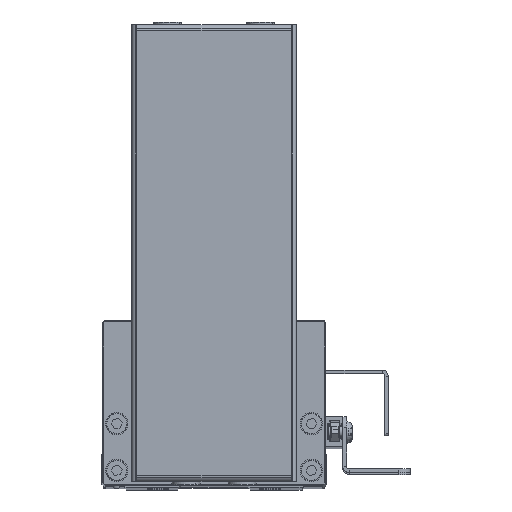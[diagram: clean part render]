
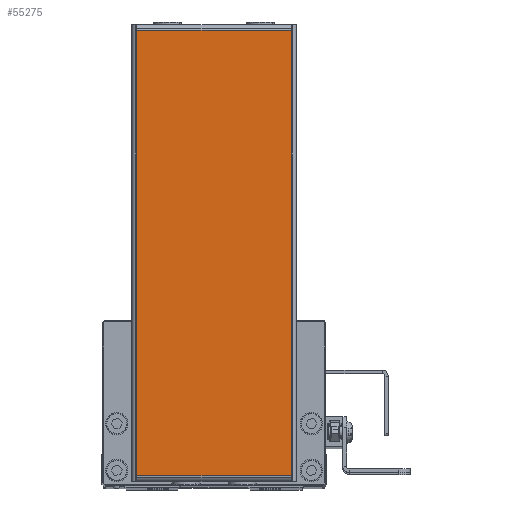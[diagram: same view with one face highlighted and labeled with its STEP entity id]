
A CAD part, top view. The second image highlights one B-rep face of the part: STEP entity #55275.
In plain terms, the highlighted planar face has unit normal (0, 0, 1) as drawn and (0, 0, -1) by its records, which use the part's own axes.
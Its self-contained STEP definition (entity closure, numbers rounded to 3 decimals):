
#282 = LINE ( 'NONE', #34448, #26532 ) ;
#641 = EDGE_CURVE ( 'NONE', #19281, #54152, #3967, .T. ) ;
#3403 = EDGE_CURVE ( 'NONE', #36416, #19281, #9266, .T. ) ;
#3967 = LINE ( 'NONE', #9452, #30939 ) ;
#5375 = VECTOR ( 'NONE', #36596, 1000. ) ;
#9266 = LINE ( 'NONE', #15839, #55844 ) ;
#9452 = CARTESIAN_POINT ( 'NONE',  ( 0., 42.7, -1. ) ) ;
#9522 = PLANE ( 'NONE',  #30927 ) ;
#9932 = CARTESIAN_POINT ( 'NONE',  ( 1.5, 1.3, -1. ) ) ;
#11483 = EDGE_CURVE ( 'NONE', #54152, #46057, #36548, .T. ) ;
#14857 = CARTESIAN_POINT ( 'NONE',  ( 120.5, 1.3, -1. ) ) ;
#15839 = CARTESIAN_POINT ( 'NONE',  ( 1.5, 1.3, -1. ) ) ;
#19281 = VERTEX_POINT ( 'NONE', #40364 ) ;
#19836 = CARTESIAN_POINT ( 'NONE',  ( 120.5, 42.7, -1. ) ) ;
#26532 = VECTOR ( 'NONE', #44291, 1000. ) ;
#27526 = CARTESIAN_POINT ( 'NONE',  ( 120.5, 42.7, -1. ) ) ;
#27536 = CARTESIAN_POINT ( 'NONE',  ( 0., 0., -1. ) ) ;
#28352 = ORIENTED_EDGE ( 'NONE', *, *, #641, .T. ) ;
#30927 = AXIS2_PLACEMENT_3D ( 'NONE', #27536, #49790, #31881 ) ;
#30939 = VECTOR ( 'NONE', #50109, 1000. ) ;
#31881 = DIRECTION ( 'NONE',  ( -1., 0., 0. ) ) ;
#33307 = EDGE_LOOP ( 'NONE', ( #28352, #37228, #44598, #39471 ) ) ;
#34448 = CARTESIAN_POINT ( 'NONE',  ( 122., 1.3, -1. ) ) ;
#34684 = EDGE_CURVE ( 'NONE', #46057, #36416, #282, .T. ) ;
#36416 = VERTEX_POINT ( 'NONE', #9932 ) ;
#36548 = LINE ( 'NONE', #27526, #5375 ) ;
#36596 = DIRECTION ( 'NONE',  ( 0., -1., 0. ) ) ;
#37228 = ORIENTED_EDGE ( 'NONE', *, *, #11483, .T. ) ;
#39471 = ORIENTED_EDGE ( 'NONE', *, *, #3403, .T. ) ;
#40364 = CARTESIAN_POINT ( 'NONE',  ( 1.5, 42.7, -1. ) ) ;
#43142 = FACE_OUTER_BOUND ( 'NONE', #33307, .T. ) ;
#44291 = DIRECTION ( 'NONE',  ( -1., 0., 0. ) ) ;
#44598 = ORIENTED_EDGE ( 'NONE', *, *, #34684, .T. ) ;
#46057 = VERTEX_POINT ( 'NONE', #14857 ) ;
#49790 = DIRECTION ( 'NONE',  ( 0., 0., -1. ) ) ;
#50109 = DIRECTION ( 'NONE',  ( 1., 0., 0. ) ) ;
#52123 = DIRECTION ( 'NONE',  ( 0., 1., 0. ) ) ;
#54152 = VERTEX_POINT ( 'NONE', #19836 ) ;
#55275 = ADVANCED_FACE ( 'NONE', ( #43142 ), #9522, .T. ) ;
#55844 = VECTOR ( 'NONE', #52123, 1000. ) ;
